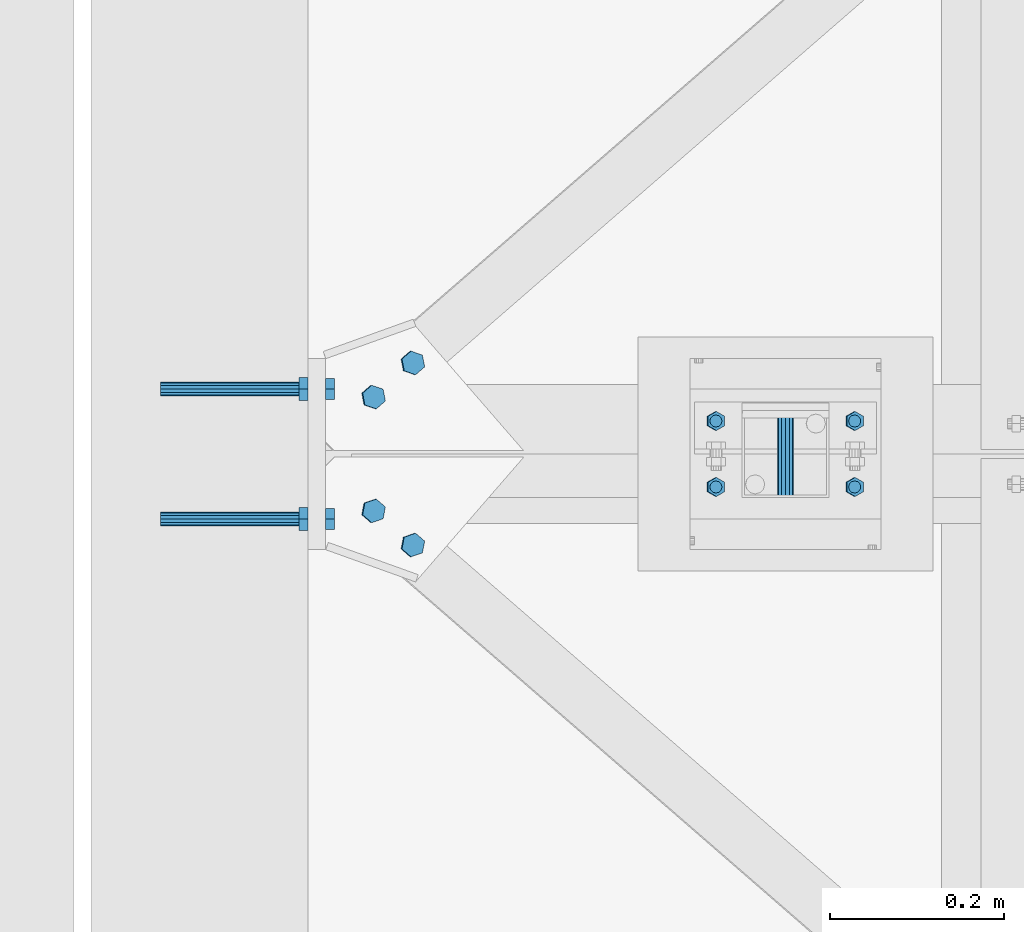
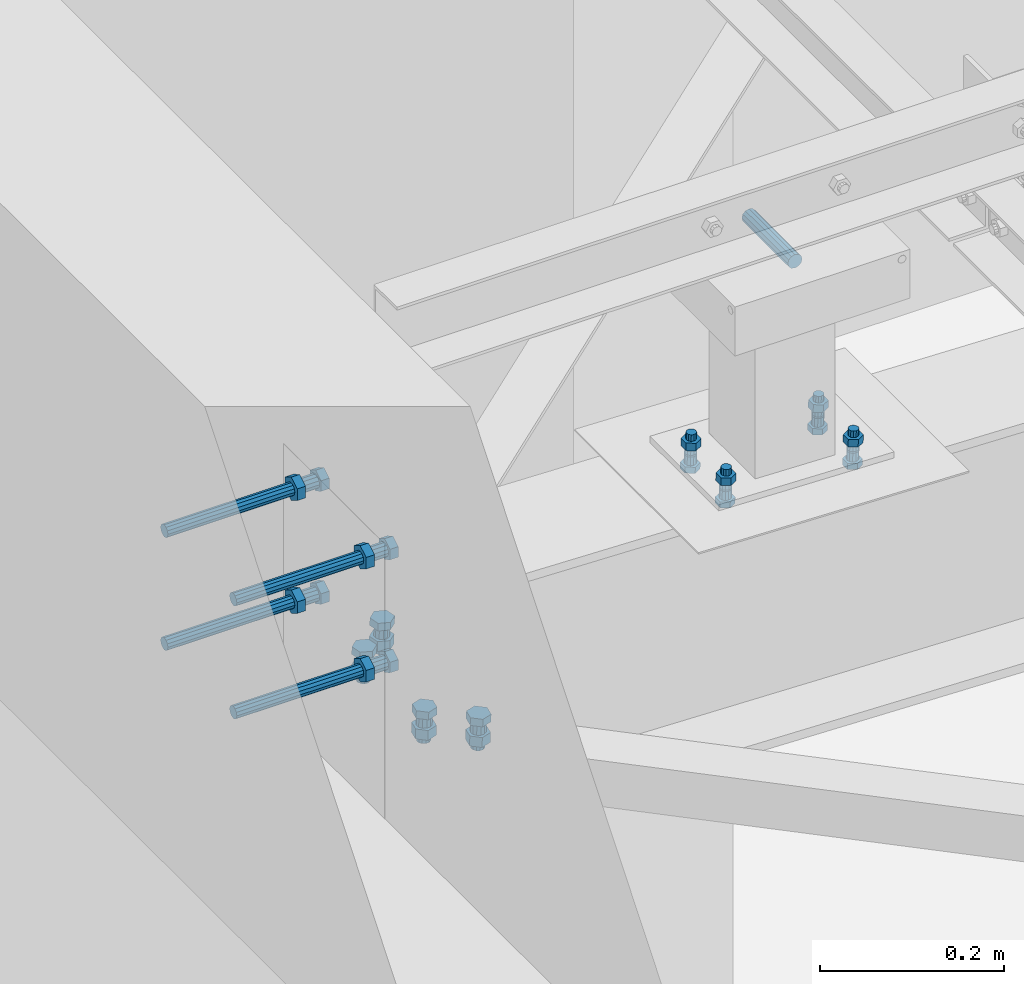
# One storey, part 232 of 3134: 6 mechanical fasteners, 3 elements without a shape of their own.
"""IFC2X3 building model written with IfcOpenShell, lengths in millimetres."""

from ifc_helpers import new_model, si_unit, frame, origin_with_axes, place, context, subcontext, project, spatial, faceted_brep, source, transform, mapped, material, type_object, element, aggregate, save


model = new_model("IFC2X3")

# Units and contexts
model_context = context("Model", 3, precision=1e-05, world=origin_with_axes())
body_context = subcontext(model_context, "Body", "Model", "MODEL_VIEW")
ifc_project = project(units=[si_unit("LENGTHUNIT", "METRE", prefix="MILLI"), si_unit("AREAUNIT", "SQUARE_METRE"), si_unit("VOLUMEUNIT", "CUBIC_METRE"), si_unit("MASSUNIT", "GRAM", prefix="KILO"), si_unit("TIMEUNIT", "SECOND"), si_unit("PLANEANGLEUNIT", "RADIAN"), si_unit("SOLIDANGLEUNIT", "STERADIAN"), si_unit("THERMODYNAMICTEMPERATUREUNIT", "DEGREE_CELSIUS"), si_unit("LUMINOUSINTENSITYUNIT", "LUMEN")], contexts=[model_context])

# Site, building, storey
site_placement = place(None, origin_with_axes())
site = spatial("IfcSite", under=ifc_project, at=site_placement, CompositionType="ELEMENT")
building_placement = place(site_placement, origin_with_axes())
building = spatial("IfcBuilding", under=site, at=building_placement, Name="Undefined", CompositionType="ELEMENT")
storey_placement = place(building_placement, origin_with_axes())
storey = spatial("IfcBuildingStorey", under=building, at=storey_placement, Name="Undefined", CompositionType="ELEMENT", Elevation=0.0)

# Assembly, mechanical fastener
assembly_1_placement = place(storey_placement, origin_with_axes())
assembly_1 = element("IfcElementAssembly", 1, at=assembly_1_placement, inside=storey, AssemblyPlace="NOTDEFINED", PredefinedType="RIGID_FRAME")
ifc_material_1 = material(Name="8.8")
mechanical_fastener_type = type_object("IfcMechanicalFastenerType", Name="Bolt assembly")
shared_shape_1 = source(origin_with_axes(), body_context, "Body", "Brep", [
    faceted_brep([(7.0, 13.0000253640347, 0.0), (6.06217782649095, 13.0000253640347, 3.50000000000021), (3.49999999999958, 13.0000253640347, 6.06217782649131), (-7.25435187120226e-13, 13.0000253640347, 7.0), (-3.50000000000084, 13.0000253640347, 6.06217782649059), (-6.06217782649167, 13.0000253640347, 3.49999999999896), (-7.0, 13.0000253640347, -1.45087037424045e-12), (-6.06217782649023, 13.0000253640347, -3.50000000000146), (-3.49999999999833, 13.0000253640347, -6.06217782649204), (2.1685340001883e-12, 13.0000253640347, -7.0), (3.50000000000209, 13.0000253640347, -6.06217782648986), (6.0621778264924, 13.0000253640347, -3.4999999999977), (6.0621778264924, 15.0999999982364, -3.4999999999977), (3.50000000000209, 15.0999999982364, -6.06217782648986), (2.1685340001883e-12, 15.0999999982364, -7.0), (-3.49999999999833, 15.0999999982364, -6.06217782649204), (-6.06217782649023, 15.0999999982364, -3.50000000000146), (-7.0, 15.0999999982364, -1.45087037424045e-12), (-6.06217782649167, 15.0999999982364, 3.49999999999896), (-3.50000000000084, 15.0999999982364, 6.06217782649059), (-7.25435187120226e-13, 15.0999999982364, 7.0), (3.49999999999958, 15.0999999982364, 6.06217782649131), (6.06217782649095, 15.0999999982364, 3.50000000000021), (7.0, 15.0999999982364, 0.0)], [[[0, 1, 2, 3, 4, 5, 6, 7, 8, 9, 10, 11]], [[12, 13, 14, 15, 16, 17, 18, 19, 20, 21, 22, 23]], [[0, 23, 22, 1]], [[1, 22, 21, 2]], [[2, 21, 20, 3]], [[3, 20, 19, 4]], [[4, 19, 18, 5]], [[5, 18, 17, 6]], [[6, 17, 16, 7]], [[7, 16, 15, 8]], [[8, 15, 14, 9]], [[9, 14, 13, 10]], [[10, 13, 12, 11]], [[11, 12, 23, 0]]]),
])
mechanical_fastener_1_placement = place(assembly_1_placement, frame((20359.2851187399, 55493.0, 10554.9572055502), z_axis=(-0.99951962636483, 0.0, 0.0309922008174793), x_axis=(0.0, -1.0, 0.0)))
mechanical_fastener_1 = element("IfcMechanicalFastener", 2, at=mechanical_fastener_1_placement, type_object=mechanical_fastener_type, material=ifc_material_1, Name="Bolt assembly", NominalDiameter=12.0, NominalLength=2.0, context=body_context, shape_type="MappedRepresentation", body=[
    mapped(shared_shape_1, transform((0.0, -5.32963895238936e-10, -79.9999999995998))),
    mapped(shared_shape_1, transform((76.0, -5.32963895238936e-10, -79.9999999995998))),
    mapped(shared_shape_1, transform((0.0, 5.3114490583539e-10, 79.9999999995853))),
    mapped(shared_shape_1, transform((76.0, 5.3114490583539e-10, 79.9999999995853))),
])
aggregate(assembly_1, [mechanical_fastener_1])

assembly_2_placement = place(storey_placement, origin_with_axes())
assembly_2 = element("IfcElementAssembly", 3, at=assembly_2_placement, inside=storey, AssemblyPlace="NOTDEFINED", PredefinedType="RIGID_FRAME")
shared_shape_2 = source(origin_with_axes(), body_context, "Body", "Brep", [
    faceted_brep([(9.0, -50.0, 0.0), (7.79422863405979, -50.0, 4.50000000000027), (4.49999999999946, -50.0, 7.79422863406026), (-9.3270238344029e-13, -50.0, 9.0), (-4.50000000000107, -50.0, 7.79422863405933), (-7.79422863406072, -50.0, 4.49999999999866), (-9.0, -50.0, -1.86540476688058e-12), (-7.79422863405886, -50.0, -4.50000000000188), (-4.49999999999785, -50.0, -7.79422863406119), (2.78811514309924e-12, -50.0, -9.0), (4.50000000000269, -50.0, -7.7942286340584), (7.79422863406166, -50.0, -4.49999999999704), (7.79422863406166, 50.1, -4.49999999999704), (4.50000000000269, 50.1, -7.7942286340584), (2.78811514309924e-12, 50.1, -9.0), (-4.49999999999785, 50.1, -7.79422863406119), (-7.79422863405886, 50.1, -4.50000000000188), (-9.0, 50.1, -1.86540476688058e-12), (-7.79422863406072, 50.1, 4.49999999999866), (-4.50000000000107, 50.1, 7.79422863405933), (-9.3270238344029e-13, 50.1, 9.0), (4.49999999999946, 50.1, 7.79422863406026), (7.79422863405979, 50.1, 4.50000000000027), (9.0, 50.1, 0.0)], [[[0, 1, 2, 3, 4, 5, 6, 7, 8, 9, 10, 11]], [[12, 13, 14, 15, 16, 17, 18, 19, 20, 21, 22, 23]], [[0, 23, 22, 1]], [[1, 22, 21, 2]], [[2, 21, 20, 3]], [[3, 20, 19, 4]], [[4, 19, 18, 5]], [[5, 18, 17, 6]], [[6, 17, 16, 7]], [[7, 16, 15, 8]], [[8, 15, 14, 9]], [[9, 14, 13, 10]], [[10, 13, 12, 11]], [[11, 12, 23, 0]]]),
])
mechanical_fastener_2_placement = place(assembly_2_placement, frame((20360.0, 55455.0, 10851.0), z_axis=(-1.0, 0.0, 0.0), x_axis=(0.0, 0.0, 1.0)))
mechanical_fastener_2 = element("IfcMechanicalFastener", 4, at=mechanical_fastener_2_placement, type_object=mechanical_fastener_type, material=ifc_material_1, Name="Bolt assembly", NominalDiameter=16.0, NominalLength=100.0, context=body_context, shape_type="MappedRepresentation", body=[
    mapped(shared_shape_2, transform((0.0, 0.0, 0.0))),
])
aggregate(assembly_2, [mechanical_fastener_2])

# Assembly, mechanical fasteners
assembly_3_placement = place(storey_placement, origin_with_axes())
assembly_3 = element("IfcElementAssembly", 5, at=assembly_3_placement, inside=storey, Name="IPE330", AssemblyPlace="NOTDEFINED", PredefinedType="RIGID_FRAME")
shared_shape_3 = source(origin_with_axes(), body_context, "Body", "Brep", [
    faceted_brep([(13.856406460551, -14.0, 0.0), (6.92820323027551, -14.0, 12.0), (-6.92820323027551, -14.0, 12.0), (-13.856406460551, -14.0, 1.69692038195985e-15), (-6.92820323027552, -14.0, -12.0), (6.9282032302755, -14.0, -12.0), (6.9282032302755, -4.00000145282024, -12.0), (-6.92820323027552, -4.00000145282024, -12.0), (-13.856406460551, -4.00000145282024, 1.69692038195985e-15), (-6.92820323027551, -4.00000145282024, 12.0), (6.92820323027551, -4.00000145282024, 12.0), (13.856406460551, -4.00000145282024, 0.0), (8.0, -4.00000145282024, 0.0), (6.92820323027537, -4.00000145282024, 4.00000000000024), (3.99999999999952, -4.00000145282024, 6.92820323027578), (-8.29068785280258e-13, -4.00000145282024, 8.0), (-4.00000000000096, -4.00000145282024, 6.92820323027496), (-6.9282032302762, -4.00000145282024, 3.99999999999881), (-8.0, -4.00000145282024, -1.65813757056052e-12), (-6.92820323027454, -4.00000145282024, -4.00000000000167), (-3.99999999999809, -4.00000145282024, -6.92820323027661), (2.47832457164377e-12, -4.00000145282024, -8.0), (4.00000000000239, -4.00000145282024, -6.92820323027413), (6.92820323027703, -4.00000145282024, -3.99999999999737), (6.92820323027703, 31.0, -3.99999999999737), (4.00000000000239, 31.0, -6.92820323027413), (2.47832457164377e-12, 31.0, -8.0), (-3.99999999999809, 31.0, -6.92820323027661), (-6.92820323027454, 31.0, -4.00000000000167), (-8.0, 31.0, -1.65813757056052e-12), (-6.9282032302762, 31.0, 3.99999999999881), (-4.00000000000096, 31.0, 6.92820323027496), (-8.29068785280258e-13, 31.0, 8.0), (3.99999999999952, 31.0, 6.92820323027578), (6.92820323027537, 31.0, 4.00000000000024), (8.0, 31.0, 0.0), (13.856406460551, 9.99999995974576, 0.0), (6.92820323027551, 9.99999995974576, 12.0), (-6.92820323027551, 9.99999995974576, 12.0), (-13.856406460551, 9.99999995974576, 1.69692038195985e-15), (-6.92820323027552, 9.99999995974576, -12.0), (6.9282032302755, 9.99999995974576, -12.0), (6.9282032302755, 22.9999913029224, -12.0), (-6.92820323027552, 22.9999913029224, -12.0), (-13.856406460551, 22.9999913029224, 1.69692038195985e-15), (-6.92820323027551, 22.9999913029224, 12.0), (6.92820323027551, 22.9999913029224, 12.0), (13.856406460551, 22.9999913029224, 0.0)], [[[0, 1, 2, 3, 4, 5]], [[6, 7, 8, 9, 10, 11]], [[0, 11, 10, 1]], [[1, 10, 9, 2]], [[2, 9, 8, 3]], [[3, 8, 7, 4]], [[4, 7, 6, 5]], [[5, 6, 11, 0]], [[12, 13, 14, 15, 16, 17, 18, 19, 20, 21, 22, 23]], [[24, 25, 26, 27, 28, 29, 30, 31, 32, 33, 34, 35]], [[12, 35, 34, 13]], [[13, 34, 33, 14]], [[14, 33, 32, 15]], [[15, 32, 31, 16]], [[16, 31, 30, 17]], [[17, 30, 29, 18]], [[18, 29, 28, 19]], [[19, 28, 27, 20]], [[20, 27, 26, 21]], [[21, 26, 25, 22]], [[22, 25, 24, 23]], [[23, 24, 35, 12]], [[36, 37, 38, 39, 40, 41]], [[42, 43, 44, 45, 46, 47]], [[36, 47, 46, 37]], [[37, 46, 45, 38]], [[38, 45, 44, 39]], [[39, 44, 43, 40]], [[40, 43, 42, 41]], [[41, 42, 47, 36]]]),
    faceted_brep([(9.0, 3.9, 0.0), (7.79422863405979, 3.9, 4.50000000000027), (4.49999999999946, 3.9, 7.79422863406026), (-9.3270238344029e-13, 3.9, 9.0), (-4.50000000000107, 3.9, 7.79422863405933), (-7.79422863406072, 3.9, 4.49999999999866), (-9.0, 3.9, -1.86540476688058e-12), (-7.79422863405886, 3.9, -4.50000000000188), (-4.49999999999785, 3.9, -7.79422863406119), (2.78811514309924e-12, 3.9, -9.0), (4.50000000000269, 3.9, -7.7942286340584), (7.79422863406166, 3.9, -4.49999999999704), (7.79422863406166, 9.99999995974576, -4.49999999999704), (4.50000000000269, 9.99999995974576, -7.7942286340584), (2.78811514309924e-12, 9.99999995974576, -9.0), (-4.49999999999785, 9.99999995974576, -7.79422863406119), (-7.79422863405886, 9.99999995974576, -4.50000000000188), (-9.0, 9.99999995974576, -1.86540476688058e-12), (-7.79422863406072, 9.99999995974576, 4.49999999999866), (-4.50000000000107, 9.99999995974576, 7.79422863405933), (-9.3270238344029e-13, 9.99999995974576, 9.0), (4.49999999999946, 9.99999995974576, 7.79422863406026), (7.79422863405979, 9.99999995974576, 4.50000000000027), (9.0, 9.99999995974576, 0.0), (9.0, -3.9, 0.0), (7.79422863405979, -3.9, 4.50000000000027), (4.49999999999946, -3.9, 7.79422863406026), (-9.3270238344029e-13, -3.9, 9.0), (-4.50000000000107, -3.9, 7.79422863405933), (-7.79422863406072, -3.9, 4.49999999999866), (-9.0, -3.9, -1.86540476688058e-12), (-7.79422863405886, -3.9, -4.50000000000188), (-4.49999999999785, -3.9, -7.79422863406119), (2.78811514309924e-12, -3.9, -9.0), (4.50000000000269, -3.9, -7.7942286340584), (7.79422863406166, -3.9, -4.49999999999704), (7.79422863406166, 4.09999854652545, -4.49999999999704), (4.50000000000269, 4.09999854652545, -7.7942286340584), (2.78811514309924e-12, 4.09999854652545, -9.0), (-4.49999999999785, 4.09999854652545, -7.79422863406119), (-7.79422863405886, 4.09999854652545, -4.50000000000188), (-9.0, 4.09999854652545, -1.86540476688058e-12), (-7.79422863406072, 4.09999854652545, 4.49999999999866), (-4.50000000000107, 4.09999854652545, 7.79422863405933), (-9.3270238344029e-13, 4.09999854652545, 9.0), (4.49999999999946, 4.09999854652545, 7.79422863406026), (7.79422863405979, 4.09999854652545, 4.50000000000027), (9.0, 4.09999854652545, 0.0)], [[[0, 1, 2, 3, 4, 5, 6, 7, 8, 9, 10, 11]], [[12, 13, 14, 15, 16, 17, 18, 19, 20, 21, 22, 23]], [[0, 23, 22, 1]], [[1, 22, 21, 2]], [[2, 21, 20, 3]], [[3, 20, 19, 4]], [[4, 19, 18, 5]], [[5, 18, 17, 6]], [[6, 17, 16, 7]], [[7, 16, 15, 8]], [[8, 15, 14, 9]], [[9, 14, 13, 10]], [[10, 13, 12, 11]], [[11, 12, 23, 0]], [[24, 25, 26, 27, 28, 29, 30, 31, 32, 33, 34, 35]], [[36, 37, 38, 39, 40, 41, 42, 43, 44, 45, 46, 47]], [[24, 47, 46, 25]], [[25, 46, 45, 26]], [[26, 45, 44, 27]], [[27, 44, 43, 28]], [[28, 43, 42, 29]], [[29, 42, 41, 30]], [[30, 41, 40, 31]], [[31, 40, 39, 32]], [[32, 39, 38, 33]], [[33, 38, 37, 34]], [[34, 37, 36, 35]], [[35, 36, 47, 24]]]),
])
mechanical_fastener_3_placement = place(assembly_3_placement, frame((19930.7692656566, 55559.8850970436, 10421.1792912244), z_axis=(0.655215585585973, -0.755168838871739, -0.0203116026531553), x_axis=(-0.754806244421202, -0.655530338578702, 0.0233989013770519)))
mechanical_fastener_3 = element("IfcMechanicalFastener", 6, at=mechanical_fastener_3_placement, type_object=mechanical_fastener_type, material=ifc_material_1, Name="Bolt assembly", NominalDiameter=16.0, NominalLength=35.0, context=body_context, shape_type="MappedRepresentation", body=[
    mapped(shared_shape_3, transform((0.0, 0.0, 0.0))),
    mapped(shared_shape_3, transform((59.9999999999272, 0.0, 5.40239852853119e-10))),
])
shared_shape_4 = source(origin_with_axes(), body_context, "Body", "Brep", [
    faceted_brep([(13.856406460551, -14.0, 0.0), (6.92820323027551, -14.0, 12.0), (-6.92820323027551, -14.0, 12.0), (-13.856406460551, -14.0, 1.69692038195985e-15), (-6.92820323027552, -14.0, -12.0), (6.9282032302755, -14.0, -12.0), (6.9282032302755, -4.00000145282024, -12.0), (-6.92820323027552, -4.00000145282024, -12.0), (-13.856406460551, -4.00000145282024, 1.69692038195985e-15), (-6.92820323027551, -4.00000145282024, 12.0), (6.92820323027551, -4.00000145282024, 12.0), (13.856406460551, -4.00000145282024, 0.0), (8.0, -4.00000145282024, 0.0), (6.92820323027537, -4.00000145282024, 4.00000000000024), (3.99999999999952, -4.00000145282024, 6.92820323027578), (-8.29068785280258e-13, -4.00000145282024, 8.0), (-4.00000000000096, -4.00000145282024, 6.92820323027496), (-6.9282032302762, -4.00000145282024, 3.99999999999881), (-8.0, -4.00000145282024, -1.65813757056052e-12), (-6.92820323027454, -4.00000145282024, -4.00000000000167), (-3.99999999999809, -4.00000145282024, -6.92820323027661), (2.47832457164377e-12, -4.00000145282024, -8.0), (4.00000000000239, -4.00000145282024, -6.92820323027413), (6.92820323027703, -4.00000145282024, -3.99999999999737), (6.92820323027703, 31.0, -3.99999999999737), (4.00000000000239, 31.0, -6.92820323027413), (2.47832457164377e-12, 31.0, -8.0), (-3.99999999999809, 31.0, -6.92820323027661), (-6.92820323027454, 31.0, -4.00000000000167), (-8.0, 31.0, -1.65813757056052e-12), (-6.9282032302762, 31.0, 3.99999999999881), (-4.00000000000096, 31.0, 6.92820323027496), (-8.29068785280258e-13, 31.0, 8.0), (3.99999999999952, 31.0, 6.92820323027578), (6.92820323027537, 31.0, 4.00000000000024), (8.0, 31.0, 0.0), (13.856406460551, 10.0000943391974, 0.0), (6.92820323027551, 10.0000943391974, 12.0), (-6.92820323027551, 10.0000943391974, 12.0), (-13.856406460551, 10.0000943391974, 1.69692038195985e-15), (-6.92820323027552, 10.0000943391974, -12.0), (6.9282032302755, 10.0000943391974, -12.0), (6.9282032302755, 23.0000943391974, -12.0), (-6.92820323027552, 23.0000943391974, -12.0), (-13.856406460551, 23.0000943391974, 1.69692038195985e-15), (-6.92820323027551, 23.0000943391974, 12.0), (6.92820323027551, 23.0000943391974, 12.0), (13.856406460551, 23.0000943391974, 0.0)], [[[0, 1, 2, 3, 4, 5]], [[6, 7, 8, 9, 10, 11]], [[0, 11, 10, 1]], [[1, 10, 9, 2]], [[2, 9, 8, 3]], [[3, 8, 7, 4]], [[4, 7, 6, 5]], [[5, 6, 11, 0]], [[12, 13, 14, 15, 16, 17, 18, 19, 20, 21, 22, 23]], [[24, 25, 26, 27, 28, 29, 30, 31, 32, 33, 34, 35]], [[12, 35, 34, 13]], [[13, 34, 33, 14]], [[14, 33, 32, 15]], [[15, 32, 31, 16]], [[16, 31, 30, 17]], [[17, 30, 29, 18]], [[18, 29, 28, 19]], [[19, 28, 27, 20]], [[20, 27, 26, 21]], [[21, 26, 25, 22]], [[22, 25, 24, 23]], [[23, 24, 35, 12]], [[36, 37, 38, 39, 40, 41]], [[42, 43, 44, 45, 46, 47]], [[36, 47, 46, 37]], [[37, 46, 45, 38]], [[38, 45, 44, 39]], [[39, 44, 43, 40]], [[40, 43, 42, 41]], [[41, 42, 47, 36]]]),
    faceted_brep([(9.0, 3.90009433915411, 0.0), (7.79422863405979, 3.90009433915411, 4.50000000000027), (4.49999999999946, 3.90009433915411, 7.79422863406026), (-9.3270238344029e-13, 3.90009433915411, 9.0), (-4.50000000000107, 3.90009433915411, 7.79422863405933), (-7.79422863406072, 3.90009433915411, 4.49999999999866), (-9.0, 3.90009433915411, -1.86540476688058e-12), (-7.79422863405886, 3.90009433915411, -4.50000000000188), (-4.49999999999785, 3.90009433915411, -7.79422863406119), (2.78811514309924e-12, 3.90009433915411, -9.0), (4.50000000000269, 3.90009433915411, -7.7942286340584), (7.79422863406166, 3.90009433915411, -4.49999999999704), (7.79422863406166, 10.0000943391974, -4.49999999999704), (4.50000000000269, 10.0000943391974, -7.7942286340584), (2.78811514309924e-12, 10.0000943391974, -9.0), (-4.49999999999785, 10.0000943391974, -7.79422863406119), (-7.79422863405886, 10.0000943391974, -4.50000000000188), (-9.0, 10.0000943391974, -1.86540476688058e-12), (-7.79422863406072, 10.0000943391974, 4.49999999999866), (-4.50000000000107, 10.0000943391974, 7.79422863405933), (-9.3270238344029e-13, 10.0000943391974, 9.0), (4.49999999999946, 10.0000943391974, 7.79422863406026), (7.79422863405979, 10.0000943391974, 4.50000000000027), (9.0, 10.0000943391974, 0.0), (9.0, -3.9, 0.0), (7.79422863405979, -3.9, 4.50000000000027), (4.49999999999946, -3.9, 7.79422863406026), (-9.3270238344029e-13, -3.9, 9.0), (-4.50000000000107, -3.9, 7.79422863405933), (-7.79422863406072, -3.9, 4.49999999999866), (-9.0, -3.9, -1.86540476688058e-12), (-7.79422863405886, -3.9, -4.50000000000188), (-4.49999999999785, -3.9, -7.79422863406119), (2.78811514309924e-12, -3.9, -9.0), (4.50000000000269, -3.9, -7.7942286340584), (7.79422863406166, -3.9, -4.49999999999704), (7.79422863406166, 4.09999854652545, -4.49999999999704), (4.50000000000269, 4.09999854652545, -7.7942286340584), (2.78811514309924e-12, 4.09999854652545, -9.0), (-4.49999999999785, 4.09999854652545, -7.79422863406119), (-7.79422863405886, 4.09999854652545, -4.50000000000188), (-9.0, 4.09999854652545, -1.86540476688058e-12), (-7.79422863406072, 4.09999854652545, 4.49999999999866), (-4.50000000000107, 4.09999854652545, 7.79422863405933), (-9.3270238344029e-13, 4.09999854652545, 9.0), (4.49999999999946, 4.09999854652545, 7.79422863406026), (7.79422863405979, 4.09999854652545, 4.50000000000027), (9.0, 4.09999854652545, 0.0)], [[[0, 1, 2, 3, 4, 5, 6, 7, 8, 9, 10, 11]], [[12, 13, 14, 15, 16, 17, 18, 19, 20, 21, 22, 23]], [[0, 23, 22, 1]], [[1, 22, 21, 2]], [[2, 21, 20, 3]], [[3, 20, 19, 4]], [[4, 19, 18, 5]], [[5, 18, 17, 6]], [[6, 17, 16, 7]], [[7, 16, 15, 8]], [[8, 15, 14, 9]], [[9, 14, 13, 10]], [[10, 13, 12, 11]], [[11, 12, 23, 0]], [[24, 25, 26, 27, 28, 29, 30, 31, 32, 33, 34, 35]], [[36, 37, 38, 39, 40, 41, 42, 43, 44, 45, 46, 47]], [[24, 47, 46, 25]], [[25, 46, 45, 26]], [[26, 45, 44, 27]], [[27, 44, 43, 28]], [[28, 43, 42, 29]], [[29, 42, 41, 30]], [[30, 41, 40, 31]], [[31, 40, 39, 32]], [[32, 39, 38, 33]], [[33, 38, 37, 34]], [[34, 37, 36, 35]], [[35, 36, 47, 24]]]),
])
mechanical_fastener_4_placement = place(assembly_3_placement, frame((19930.7692656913, 55350.1149029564, 10421.179291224), z_axis=(-0.655215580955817, -0.75516884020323, 0.0203117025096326), x_axis=(-0.754806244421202, 0.655530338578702, 0.0233989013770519)))
mechanical_fastener_4 = element("IfcMechanicalFastener", 7, at=mechanical_fastener_4_placement, type_object=mechanical_fastener_type, material=ifc_material_1, Name="Bolt assembly", NominalDiameter=16.0, NominalLength=35.0, context=body_context, shape_type="MappedRepresentation", body=[
    mapped(shared_shape_4, transform((0.0, 0.0, 0.0))),
    mapped(shared_shape_4, transform((59.9999999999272, 0.0, 5.40239852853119e-10))),
])
ifc_material_2 = material(Name="HILTI-HAS")
shared_shape_5 = source(origin_with_axes(), body_context, "Body", "Brep", [
    faceted_brep([(13.856406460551, -10.56, 0.0), (6.92820323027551, -10.56, 12.0), (-6.92820323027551, -10.56, 12.0), (-13.856406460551, -10.56, 1.69692038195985e-15), (-6.92820323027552, -10.56, -12.0), (6.9282032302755, -10.56, -12.0), (6.9282032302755, 0.0, -12.0), (-6.92820323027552, 0.0, -12.0), (-13.856406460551, 0.0, 1.69692038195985e-15), (-6.92820323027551, 0.0, 12.0), (6.92820323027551, 0.0, 12.0), (13.856406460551, 0.0, 0.0), (8.0, 0.0, 0.0), (6.92820323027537, 0.0, 4.00000000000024), (3.99999999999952, 0.0, 6.92820323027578), (-8.29068785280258e-13, 0.0, 8.0), (-4.00000000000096, 0.0, 6.92820323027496), (-6.9282032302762, 0.0, 3.99999999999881), (-8.0, 0.0, -1.65813757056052e-12), (-6.92820323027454, 0.0, -4.00000000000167), (-3.99999999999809, 0.0, -6.92820323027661), (2.47832457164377e-12, 0.0, -8.0), (4.00000000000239, 0.0, -6.92820323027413), (6.92820323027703, 0.0, -3.99999999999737), (6.92820323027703, 190.0, -3.99999999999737), (4.00000000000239, 190.0, -6.92820323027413), (2.47832457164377e-12, 190.0, -8.0), (-3.99999999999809, 190.0, -6.92820323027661), (-6.92820323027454, 190.0, -4.00000000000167), (-8.0, 190.0, -1.65813757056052e-12), (-6.9282032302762, 190.0, 3.99999999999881), (-4.00000000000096, 190.0, 6.92820323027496), (-8.29068785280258e-13, 190.0, 8.0), (3.99999999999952, 190.0, 6.92820323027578), (6.92820323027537, 190.0, 4.00000000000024), (8.0, 190.0, 0.0), (15.3344231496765, 20.0, 0.0), (7.66721157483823, 20.0, 13.28), (-7.66721157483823, 20.0, 13.28), (-15.3344231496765, 20.0, 1.87792522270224e-15), (-7.66721157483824, 20.0, -13.28), (7.66721157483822, 20.0, -13.28), (7.66721157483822, 30.56, -13.28), (-7.66721157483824, 30.56, -13.28), (-15.3344231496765, 30.56, 1.87792522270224e-15), (-7.66721157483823, 30.56, 13.28), (7.66721157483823, 30.56, 13.28), (15.3344231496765, 30.56, 0.0)], [[[0, 1, 2, 3, 4, 5]], [[6, 7, 8, 9, 10, 11]], [[0, 11, 10, 1]], [[1, 10, 9, 2]], [[2, 9, 8, 3]], [[3, 8, 7, 4]], [[4, 7, 6, 5]], [[5, 6, 11, 0]], [[12, 13, 14, 15, 16, 17, 18, 19, 20, 21, 22, 23]], [[24, 25, 26, 27, 28, 29, 30, 31, 32, 33, 34, 35]], [[12, 35, 34, 13]], [[13, 34, 33, 14]], [[14, 33, 32, 15]], [[15, 32, 31, 16]], [[16, 31, 30, 17]], [[17, 30, 29, 18]], [[18, 29, 28, 19]], [[19, 28, 27, 20]], [[20, 27, 26, 21]], [[21, 26, 25, 22]], [[22, 25, 24, 23]], [[23, 24, 35, 12]], [[36, 37, 38, 39, 40, 41]], [[42, 43, 44, 45, 46, 47]], [[36, 47, 46, 37]], [[37, 46, 45, 38]], [[38, 45, 44, 39]], [[39, 44, 43, 40]], [[40, 43, 42, 41]], [[41, 42, 47, 36]]]),
    faceted_brep([(9.0, -3.46568413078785e-07, 0.0), (7.79422863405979, -3.46568413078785e-07, 4.50000000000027), (4.49999999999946, -3.46568413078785e-07, 7.79422863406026), (-9.3270238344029e-13, -3.46568413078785e-07, 9.0), (-4.50000000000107, -3.46568413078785e-07, 7.79422863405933), (-7.79422863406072, -3.46568413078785e-07, 4.49999999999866), (-9.0, -3.46568413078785e-07, -1.86540476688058e-12), (-7.79422863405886, -3.46568413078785e-07, -4.50000000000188), (-4.49999999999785, -3.46568413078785e-07, -7.79422863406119), (2.78811514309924e-12, -3.46568413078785e-07, -9.0), (4.50000000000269, -3.46568413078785e-07, -7.7942286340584), (7.79422863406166, -3.46568413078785e-07, -4.49999999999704), (7.79422863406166, 20.0999997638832, -4.49999999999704), (4.50000000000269, 20.0999997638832, -7.7942286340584), (2.78811514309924e-12, 20.0999997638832, -9.0), (-4.49999999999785, 20.0999997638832, -7.79422863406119), (-7.79422863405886, 20.0999997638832, -4.50000000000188), (-9.0, 20.0999997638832, -1.86540476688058e-12), (-7.79422863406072, 20.0999997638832, 4.49999999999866), (-4.50000000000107, 20.0999997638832, 7.79422863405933), (-9.3270238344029e-13, 20.0999997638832, 9.0), (4.49999999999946, 20.0999997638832, 7.79422863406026), (7.79422863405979, 20.0999997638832, 4.50000000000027), (9.0, 20.0999997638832, 0.0)], [[[0, 1, 2, 3, 4, 5, 6, 7, 8, 9, 10, 11]], [[12, 13, 14, 15, 16, 17, 18, 19, 20, 21, 22, 23]], [[0, 23, 22, 1]], [[1, 22, 21, 2]], [[2, 21, 20, 3]], [[3, 20, 19, 4]], [[4, 19, 18, 5]], [[5, 18, 17, 6]], [[6, 17, 16, 7]], [[7, 16, 15, 8]], [[8, 15, 14, 9]], [[9, 14, 13, 10]], [[10, 13, 12, 11]], [[11, 12, 23, 0]]]),
])
mechanical_fastener_5_placement = place(assembly_3_placement, frame((19830.0, 55455.0, 10669.4424502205), z_axis=(0.0, 1.0, 0.0), x_axis=(0.0, 0.0, -1.0)))
mechanical_fastener_5 = element("IfcMechanicalFastener", 8, at=mechanical_fastener_5_placement, type_object=mechanical_fastener_type, material=ifc_material_2, Name="Bolt assembly", NominalDiameter=16.0, NominalLength=190.0, context=body_context, shape_type="MappedRepresentation", body=[
    mapped(shared_shape_5, transform((0.0, 0.0, -75.0))),
    mapped(shared_shape_5, transform((150.0, 0.0, -75.0))),
    mapped(shared_shape_5, transform((0.0, 0.0, 75.0))),
    mapped(shared_shape_5, transform((150.0, 0.0, 75.0))),
])
shared_shape_6 = source(origin_with_axes(), body_context, "Body", "Brep", [
    faceted_brep([(10.9696551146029, -6.49073359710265, 0.0), (5.48482755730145, -6.49073359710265, 9.5), (-5.48482755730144, -6.49073359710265, 9.5), (-10.9696551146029, -6.49073359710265, 1.34339530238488e-15), (-5.48482755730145, -6.49073359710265, -9.5), (5.48482755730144, -6.49073359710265, -9.50000000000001), (5.48482755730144, 1.50926640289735, -9.50000000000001), (-5.48482755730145, 1.50926640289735, -9.5), (-10.9696551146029, 1.50926640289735, 1.34339530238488e-15), (-5.48482755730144, 1.50926640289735, 9.5), (5.48482755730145, 1.50926640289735, 9.5), (10.9696551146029, 1.50926640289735, 0.0), (6.0, 1.50926640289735, 0.0), (5.19615242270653, 1.50926640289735, 3.00000000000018), (2.99999999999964, 1.50926640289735, 5.19615242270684), (-6.21801588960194e-13, 1.50926640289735, 6.0), (-3.00000000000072, 1.50926640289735, 5.19615242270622), (-5.19615242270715, 1.50926640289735, 2.9999999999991), (-6.0, 1.50926640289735, -1.24360317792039e-12), (-5.19615242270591, 1.50926640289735, -3.00000000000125), (-2.99999999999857, 1.50926640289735, -5.19615242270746), (1.85874342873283e-12, 1.50926640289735, -6.0), (3.00000000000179, 1.50926640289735, -5.1961524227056), (5.19615242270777, 1.50926640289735, -2.99999999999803), (5.19615242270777, 41.5092664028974, -2.99999999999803), (3.00000000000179, 41.5092664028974, -5.1961524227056), (1.85874342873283e-12, 41.5092664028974, -6.0), (-2.99999999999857, 41.5092664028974, -5.19615242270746), (-5.19615242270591, 41.5092664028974, -3.00000000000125), (-6.0, 41.5092664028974, -1.24360317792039e-12), (-5.19615242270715, 41.5092664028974, 2.9999999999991), (-3.00000000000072, 41.5092664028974, 5.19615242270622), (-6.21801588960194e-13, 41.5092664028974, 6.0), (2.99999999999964, 41.5092664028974, 5.19615242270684), (5.19615242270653, 41.5092664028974, 3.00000000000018), (6.0, 41.5092664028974, 0.0), (10.9696551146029, 23.0139082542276, 0.0), (5.48482755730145, 23.0139082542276, 9.5), (-5.48482755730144, 23.0139082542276, 9.5), (-10.9696551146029, 23.0139082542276, 1.34339530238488e-15), (-5.48482755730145, 23.0139082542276, -9.5), (5.48482755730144, 23.0139082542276, -9.50000000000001), (5.48482755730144, 33.0139082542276, -9.50000000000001), (-5.48482755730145, 33.0139082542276, -9.5), (-10.9696551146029, 33.0139082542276, 1.34339530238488e-15), (-5.48482755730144, 33.0139082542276, 9.5), (5.48482755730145, 33.0139082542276, 9.5), (10.9696551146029, 33.0139082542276, 0.0)], [[[0, 1, 2, 3, 4, 5]], [[6, 7, 8, 9, 10, 11]], [[0, 11, 10, 1]], [[1, 10, 9, 2]], [[2, 9, 8, 3]], [[3, 8, 7, 4]], [[4, 7, 6, 5]], [[5, 6, 11, 0]], [[12, 13, 14, 15, 16, 17, 18, 19, 20, 21, 22, 23]], [[24, 25, 26, 27, 28, 29, 30, 31, 32, 33, 34, 35]], [[12, 35, 34, 13]], [[13, 34, 33, 14]], [[14, 33, 32, 15]], [[15, 32, 31, 16]], [[16, 31, 30, 17]], [[17, 30, 29, 18]], [[18, 29, 28, 19]], [[19, 28, 27, 20]], [[20, 27, 26, 21]], [[21, 26, 25, 22]], [[22, 25, 24, 23]], [[23, 24, 35, 12]], [[36, 37, 38, 39, 40, 41]], [[42, 43, 44, 45, 46, 47]], [[36, 47, 46, 37]], [[37, 46, 45, 38]], [[38, 45, 44, 39]], [[39, 44, 43, 40]], [[40, 43, 42, 41]], [[41, 42, 47, 36]]]),
    faceted_brep([(7.0, 14.9139082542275, 0.0), (6.06217782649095, 14.9139082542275, 3.50000000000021), (3.49999999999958, 14.9139082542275, 6.06217782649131), (-7.25435187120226e-13, 14.9139082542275, 7.0), (-3.50000000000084, 14.9139082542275, 6.06217782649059), (-6.06217782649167, 14.9139082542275, 3.49999999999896), (-7.0, 14.9139082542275, -1.45087037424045e-12), (-6.06217782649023, 14.9139082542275, -3.50000000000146), (-3.49999999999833, 14.9139082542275, -6.06217782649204), (2.1685340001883e-12, 14.9139082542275, -7.0), (3.50000000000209, 14.9139082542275, -6.06217782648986), (6.0621778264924, 14.9139082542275, -3.4999999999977), (6.0621778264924, 23.0139082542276, -3.4999999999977), (3.50000000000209, 23.0139082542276, -6.06217782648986), (2.1685340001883e-12, 23.0139082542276, -7.0), (-3.49999999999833, 23.0139082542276, -6.06217782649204), (-6.06217782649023, 23.0139082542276, -3.50000000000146), (-7.0, 23.0139082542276, -1.45087037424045e-12), (-6.06217782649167, 23.0139082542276, 3.49999999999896), (-3.50000000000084, 23.0139082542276, 6.06217782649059), (-7.25435187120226e-13, 23.0139082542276, 7.0), (3.49999999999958, 23.0139082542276, 6.06217782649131), (6.06217782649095, 23.0139082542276, 3.50000000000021), (7.0, 23.0139082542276, 0.0), (7.0, 1.60926640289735, 0.0), (6.06217782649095, 1.60926640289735, 3.50000000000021), (3.49999999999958, 1.60926640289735, 6.06217782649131), (-7.25435187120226e-13, 1.60926640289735, 7.0), (-3.50000000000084, 1.60926640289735, 6.06217782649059), (-6.06217782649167, 1.60926640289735, 3.49999999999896), (-7.0, 1.60926640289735, -1.45087037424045e-12), (-6.06217782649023, 1.60926640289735, -3.50000000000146), (-3.49999999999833, 1.60926640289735, -6.06217782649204), (2.1685340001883e-12, 1.60926640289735, -7.0), (3.50000000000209, 1.60926640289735, -6.06217782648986), (6.0621778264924, 1.60926640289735, -3.4999999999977), (6.0621778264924, 13.1092664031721, -3.4999999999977), (3.50000000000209, 13.1092664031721, -6.06217782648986), (2.1685340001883e-12, 13.1092664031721, -7.0), (-3.49999999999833, 13.1092664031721, -6.06217782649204), (-6.06217782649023, 13.1092664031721, -3.50000000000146), (-7.0, 13.1092664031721, -1.45087037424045e-12), (-6.06217782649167, 13.1092664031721, 3.49999999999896), (-3.50000000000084, 13.1092664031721, 6.06217782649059), (-7.25435187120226e-13, 13.1092664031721, 7.0), (3.49999999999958, 13.1092664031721, 6.06217782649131), (6.06217782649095, 13.1092664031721, 3.50000000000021), (7.0, 13.1092664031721, 0.0)], [[[0, 1, 2, 3, 4, 5, 6, 7, 8, 9, 10, 11]], [[12, 13, 14, 15, 16, 17, 18, 19, 20, 21, 22, 23]], [[0, 23, 22, 1]], [[1, 22, 21, 2]], [[2, 21, 20, 3]], [[3, 20, 19, 4]], [[4, 19, 18, 5]], [[5, 18, 17, 6]], [[6, 17, 16, 7]], [[7, 16, 15, 8]], [[8, 15, 14, 9]], [[9, 14, 13, 10]], [[10, 13, 12, 11]], [[11, 12, 23, 0]], [[24, 25, 26, 27, 28, 29, 30, 31, 32, 33, 34, 35]], [[36, 37, 38, 39, 40, 41, 42, 43, 44, 45, 46, 47]], [[24, 47, 46, 25]], [[25, 46, 45, 26]], [[26, 45, 44, 27]], [[27, 44, 43, 28]], [[28, 43, 42, 29]], [[29, 42, 41, 30]], [[30, 41, 40, 31]], [[31, 40, 39, 32]], [[32, 39, 38, 33]], [[33, 38, 37, 34]], [[34, 37, 36, 35]], [[35, 36, 47, 24]]]),
])
mechanical_fastener_6_placement = place(assembly_3_placement, frame((20359.2851187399, 55493.0, 10554.9572055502), z_axis=(-0.99951962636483, 0.0, 0.0309922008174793), x_axis=(0.0, -1.0, 0.0)))
mechanical_fastener_6 = element("IfcMechanicalFastener", 9, at=mechanical_fastener_6_placement, type_object=mechanical_fastener_type, material=ifc_material_1, Name="Bolt assembly", NominalDiameter=12.0, NominalLength=40.0, context=body_context, shape_type="MappedRepresentation", body=[
    mapped(shared_shape_6, transform((0.0, -5.32963895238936e-10, -79.9999999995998))),
    mapped(shared_shape_6, transform((76.0, -5.32963895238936e-10, -79.9999999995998))),
    mapped(shared_shape_6, transform((0.0, 5.3114490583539e-10, 79.9999999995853))),
    mapped(shared_shape_6, transform((76.0, 5.3114490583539e-10, 79.9999999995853))),
])
aggregate(assembly_3, [mechanical_fastener_4, mechanical_fastener_3, mechanical_fastener_5, mechanical_fastener_6])

save(model, "model.ifc")
